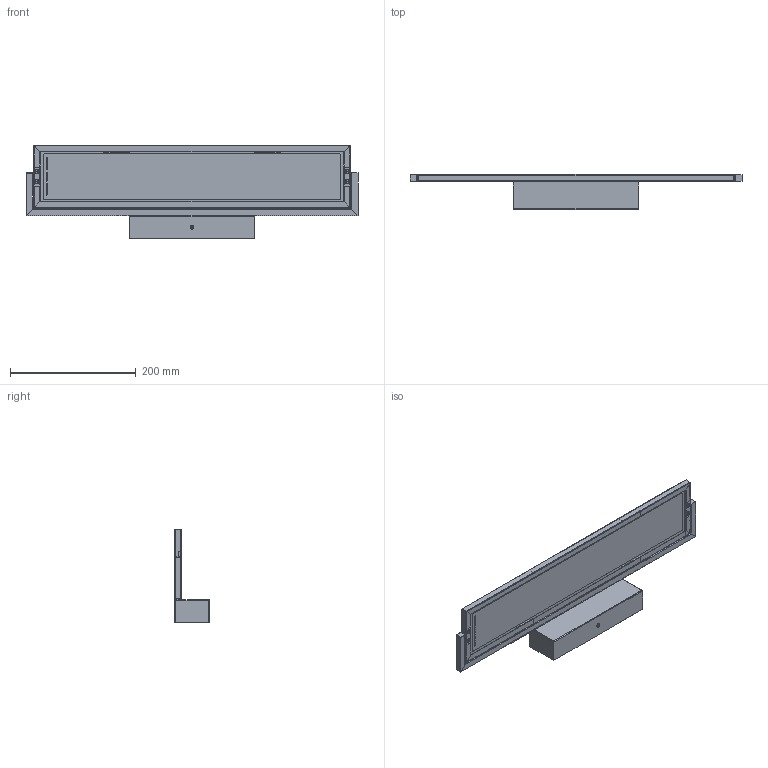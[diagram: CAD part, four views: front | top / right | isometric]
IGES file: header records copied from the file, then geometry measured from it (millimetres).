
Start section: SolidWorks IGES file using analytic representation for surfaces
Global section: file name: C:\SANTACOLE_PDM\Proyectos Catálogo\PROD-P11-009 -- PIERO\6_Técnico comercial\3D\Aplique\BW R1 Rotating Aplique.IGS; native system: SolidWorks 2019; preprocessor: SolidWorks 2019; author: ana.pascual; date: 200402.153337; units: millimetre
Bounding box: 528 x 55.5 x 149 mm (x, y, z)
Surface area: 346966.9 mm2 (no closed solid volume)
Topology: 0 solids, 0 shells, 1007 faces, 9246 edges, 9244 vertices
Faces by surface type: bspline 817, revolution 190
